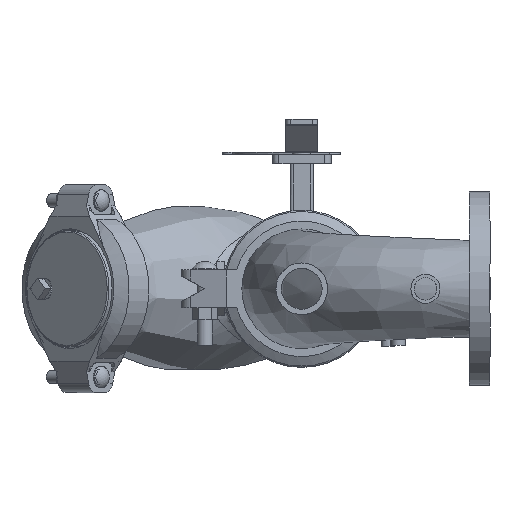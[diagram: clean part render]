
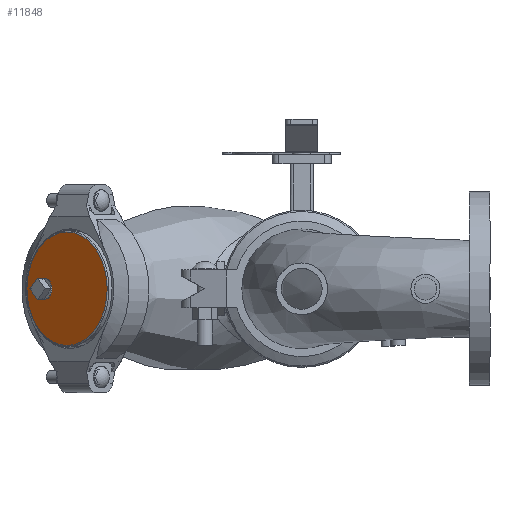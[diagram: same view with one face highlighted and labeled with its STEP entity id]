
A CAD part, front view. The second image highlights one B-rep face of the part: STEP entity #11848.
In plain terms, the highlighted planar face has unit normal (-0.707, -0.707, 0) as drawn and (1, 0, 0) by its records, which use the part's own axes.
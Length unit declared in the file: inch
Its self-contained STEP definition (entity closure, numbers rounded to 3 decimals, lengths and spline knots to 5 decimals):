
#2324=FACE_BOUND('',#3390,.T.);
#2694=FACE_OUTER_BOUND('',#3389,.T.);
#3389=EDGE_LOOP('',(#8675,#8676));
#3390=EDGE_LOOP('',(#8677));
#4094=CIRCLE('',#13044,0.5);
#4102=CIRCLE('',#13055,2.6375);
#4103=CIRCLE('',#13056,2.6375);
#4955=VERTEX_POINT('',#22443);
#4963=VERTEX_POINT('',#22464);
#4964=VERTEX_POINT('',#22465);
#6300=EDGE_CURVE('',#4955,#4955,#4094,.T.);
#6309=EDGE_CURVE('',#4963,#4964,#4102,.T.);
#6310=EDGE_CURVE('',#4964,#4963,#4103,.T.);
#8675=ORIENTED_EDGE('',*,*,#6309,.T.);
#8676=ORIENTED_EDGE('',*,*,#6310,.T.);
#8677=ORIENTED_EDGE('',*,*,#6300,.T.);
#10700=PLANE('',#13058);
#11848=ADVANCED_FACE('',(#2694,#2324),#10700,.T.);
#13044=AXIS2_PLACEMENT_3D('',#22445,#15279,#15280);
#13055=AXIS2_PLACEMENT_3D('',#22466,#15302,#15303);
#13056=AXIS2_PLACEMENT_3D('',#22467,#15304,#15305);
#13058=AXIS2_PLACEMENT_3D('',#22469,#15308,#15309);
#15279=DIRECTION('center_axis',(-1.,0.,0.));
#15280=DIRECTION('ref_axis',(0.,0.,1.));
#15302=DIRECTION('center_axis',(1.,0.,0.));
#15303=DIRECTION('ref_axis',(0.,0.,-1.));
#15304=DIRECTION('center_axis',(1.,0.,0.));
#15305=DIRECTION('ref_axis',(0.,0.,-1.));
#15308=DIRECTION('center_axis',(1.,0.,0.));
#15309=DIRECTION('ref_axis',(0.,0.,-1.));
#22443=CARTESIAN_POINT('',(1.13,1.5,-0.5));
#22445=CARTESIAN_POINT('Origin',(1.13,1.5,0.));
#22464=CARTESIAN_POINT('',(1.13,2.6375,0.));
#22465=CARTESIAN_POINT('',(1.13,0.,2.6375));
#22466=CARTESIAN_POINT('Origin',(1.13,0.,0.));
#22467=CARTESIAN_POINT('Origin',(1.13,0.,0.));
#22469=CARTESIAN_POINT('Origin',(1.13,0.,0.));
